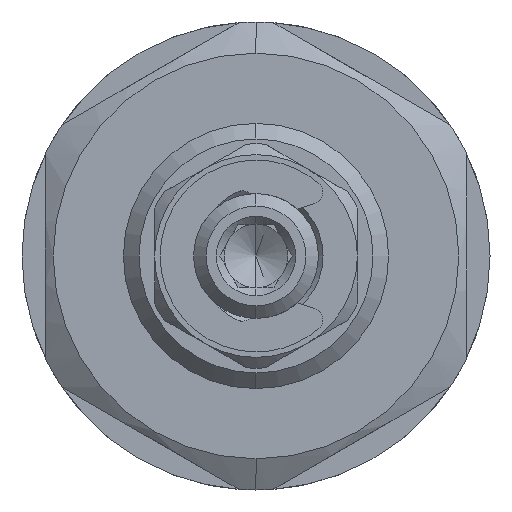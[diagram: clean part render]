
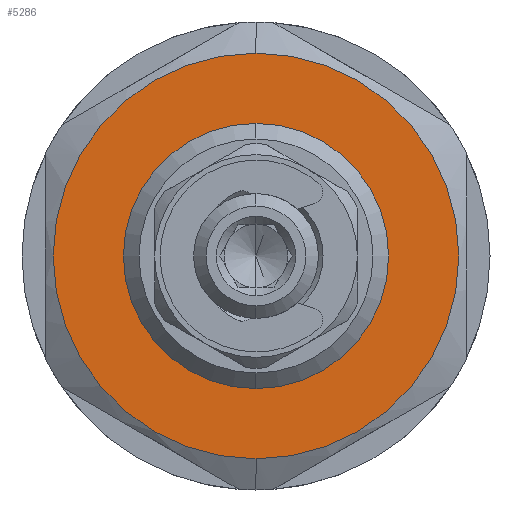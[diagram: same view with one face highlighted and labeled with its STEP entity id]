
A CAD part, left-side view. The second image highlights one B-rep face of the part: STEP entity #5286.
In plain terms, the highlighted planar face has unit normal (-1, 0, 0).
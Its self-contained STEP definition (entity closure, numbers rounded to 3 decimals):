
#132 = VERTEX_POINT ( 'NONE', #2524 ) ;
#273 = AXIS2_PLACEMENT_3D ( 'NONE', #1327, #6957, #5632 ) ;
#277 = DIRECTION ( 'NONE',  ( -1., 0., 0. ) ) ;
#829 = FACE_BOUND ( 'NONE', #5930, .T. ) ;
#942 = AXIS2_PLACEMENT_3D ( 'NONE', #1711, #1108, #1183 ) ;
#1108 = DIRECTION ( 'NONE',  ( -1., 0., 0. ) ) ;
#1183 = DIRECTION ( 'NONE',  ( 0., 0., 1. ) ) ;
#1265 = EDGE_LOOP ( 'NONE', ( #6852, #1391 ) ) ;
#1327 = CARTESIAN_POINT ( 'NONE',  ( 13., 0., 0. ) ) ;
#1391 = ORIENTED_EDGE ( 'NONE', *, *, #2907, .T. ) ;
#1663 = DIRECTION ( 'NONE',  ( -1., 0., 0. ) ) ;
#1711 = CARTESIAN_POINT ( 'NONE',  ( 13., 0., 0. ) ) ;
#1935 = CARTESIAN_POINT ( 'NONE',  ( 13., 0., 13. ) ) ;
#2260 = CARTESIAN_POINT ( 'NONE',  ( 13., 0., 0. ) ) ;
#2524 = CARTESIAN_POINT ( 'NONE',  ( 13., 0., -13. ) ) ;
#2723 = DIRECTION ( 'NONE',  ( 0., 0., 1. ) ) ;
#2769 = CARTESIAN_POINT ( 'NONE',  ( 13., 0., 0. ) ) ;
#2788 = VERTEX_POINT ( 'NONE', #4128 ) ;
#2907 = EDGE_CURVE ( 'NONE', #4694, #132, #3482, .T. ) ;
#3222 = CIRCLE ( 'NONE', #5029, 8.5 ) ;
#3280 = PLANE ( 'NONE',  #4447 ) ;
#3449 = EDGE_CURVE ( 'NONE', #132, #4694, #3640, .T. ) ;
#3482 = CIRCLE ( 'NONE', #273, 13. ) ;
#3640 = CIRCLE ( 'NONE', #942, 13. ) ;
#3723 = EDGE_CURVE ( 'NONE', #4558, #2788, #7243, .T. ) ;
#4016 = DIRECTION ( 'NONE',  ( -1., 0., 0. ) ) ;
#4127 = DIRECTION ( 'NONE',  ( 0., 0., 1. ) ) ;
#4128 = CARTESIAN_POINT ( 'NONE',  ( 13., 0., -8.5 ) ) ;
#4447 = AXIS2_PLACEMENT_3D ( 'NONE', #7705, #277, #2723 ) ;
#4558 = VERTEX_POINT ( 'NONE', #7257 ) ;
#4652 = ORIENTED_EDGE ( 'NONE', *, *, #3723, .F. ) ;
#4694 = VERTEX_POINT ( 'NONE', #1935 ) ;
#5029 = AXIS2_PLACEMENT_3D ( 'NONE', #2769, #4016, #6518 ) ;
#5286 = ADVANCED_FACE ( 'NONE', ( #6326, #829 ), #3280, .T. ) ;
#5632 = DIRECTION ( 'NONE',  ( 0., 0., 1. ) ) ;
#5835 = ORIENTED_EDGE ( 'NONE', *, *, #7074, .F. ) ;
#5930 = EDGE_LOOP ( 'NONE', ( #4652, #5835 ) ) ;
#6326 = FACE_OUTER_BOUND ( 'NONE', #1265, .T. ) ;
#6518 = DIRECTION ( 'NONE',  ( 0., 0., 1. ) ) ;
#6852 = ORIENTED_EDGE ( 'NONE', *, *, #3449, .T. ) ;
#6957 = DIRECTION ( 'NONE',  ( -1., 0., 0. ) ) ;
#7074 = EDGE_CURVE ( 'NONE', #2788, #4558, #3222, .T. ) ;
#7243 = CIRCLE ( 'NONE', #7626, 8.5 ) ;
#7257 = CARTESIAN_POINT ( 'NONE',  ( 13., 0., 8.5 ) ) ;
#7626 = AXIS2_PLACEMENT_3D ( 'NONE', #2260, #1663, #4127 ) ;
#7705 = CARTESIAN_POINT ( 'NONE',  ( 13., 8.5, 0. ) ) ;
